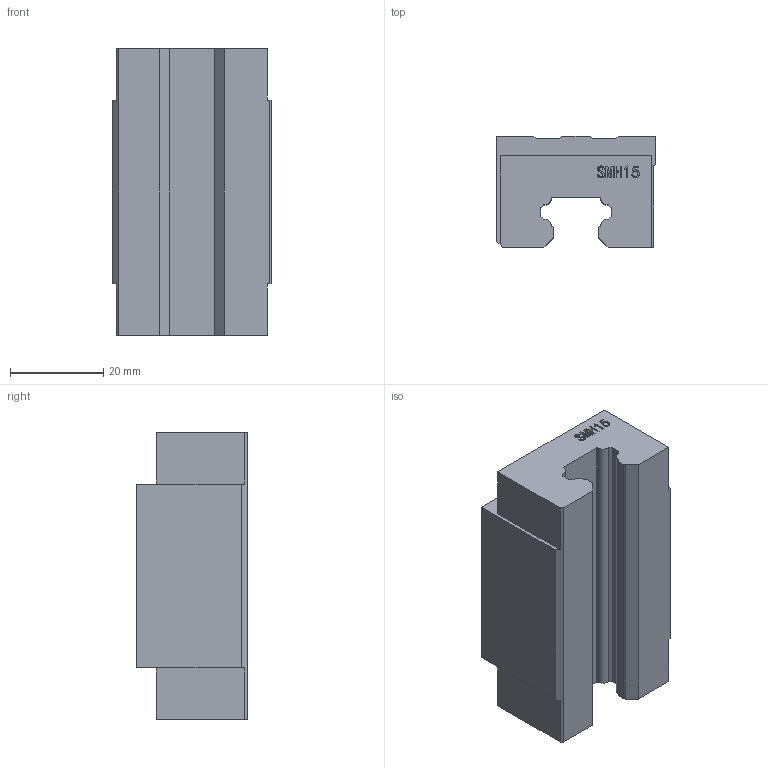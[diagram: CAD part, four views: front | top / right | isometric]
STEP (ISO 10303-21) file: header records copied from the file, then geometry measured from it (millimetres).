
FILE_DESCRIPTION (( 'STEP AP203' ), '1' );
FILE_NAME ('SMH15B.stp', '2019-09-23T09:12:22', ( 'pgos' ), ( '' ), 'SwSTEP 2.0', 'SolidWorks 2014', '' );
FILE_SCHEMA (( 'CONFIG_CONTROL_DESIGN' ));
Length unit declared in the file: millimetre
Products named in the file (1): SMH15B
Bounding box: 34 x 23.7 x 61.4 mm (x, y, z)
Volume: 37104.4 mm3; surface area: 9997.3 mm2
Topology: 1 solids, 1 shells, 130 faces, 357 edges, 238 vertices
Faces by surface type: plane 92, cylinder 20, bspline 18
Entity records: 5378 total; most frequent: CARTESIAN_POINT 2072, ORIENTED_EDGE 714, DIRECTION 587, EDGE_CURVE 357, VECTOR 281, LINE 281, VERTEX_POINT 238, AXIS2_PLACEMENT_3D 153
